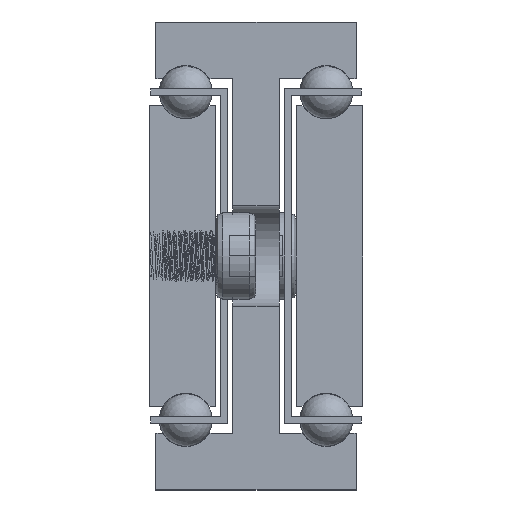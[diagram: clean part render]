
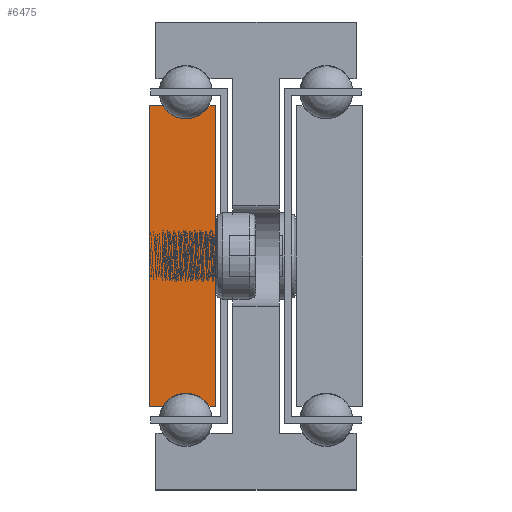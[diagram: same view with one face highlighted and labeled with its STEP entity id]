
A CAD part, front view. The second image highlights one B-rep face of the part: STEP entity #6475.
In plain terms, the highlighted planar face has unit normal (0, -1, 0).
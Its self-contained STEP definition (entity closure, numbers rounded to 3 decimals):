
#1037=CIRCLE('',#6959,4.);
#1039=CIRCLE('',#6965,4.);
#1569=FACE_OUTER_BOUND('',#1989,.T.);
#1989=EDGE_LOOP('',(#5126,#5127,#5128,#5129,#5130,#5131,#5132,#5133));
#2668=LINE('',#97193,#2880);
#2671=LINE('',#97199,#2883);
#2675=LINE('',#97211,#2887);
#2678=LINE('',#97217,#2890);
#2681=LINE('',#97223,#2893);
#2685=LINE('',#97233,#2897);
#2880=VECTOR('',#7778,1.);
#2883=VECTOR('',#7783,1.);
#2887=VECTOR('',#7795,1.);
#2890=VECTOR('',#7800,1.);
#2893=VECTOR('',#7805,1.);
#2897=VECTOR('',#7817,1.);
#3180=VERTEX_POINT('',#97190);
#3181=VERTEX_POINT('',#97192);
#3183=VERTEX_POINT('',#97198);
#3185=VERTEX_POINT('',#97204);
#3187=VERTEX_POINT('',#97210);
#3189=VERTEX_POINT('',#97216);
#3191=VERTEX_POINT('',#97222);
#3193=VERTEX_POINT('',#97228);
#4002=EDGE_CURVE('',#3181,#3180,#2668,.T.);
#4005=EDGE_CURVE('',#3183,#3181,#2671,.T.);
#4008=EDGE_CURVE('',#3185,#3183,#1037,.T.);
#4011=EDGE_CURVE('',#3187,#3185,#2675,.T.);
#4014=EDGE_CURVE('',#3189,#3187,#2678,.T.);
#4017=EDGE_CURVE('',#3191,#3189,#2681,.T.);
#4020=EDGE_CURVE('',#3193,#3191,#1039,.T.);
#4023=EDGE_CURVE('',#3180,#3193,#2685,.T.);
#5126=ORIENTED_EDGE('',*,*,#4023,.T.);
#5127=ORIENTED_EDGE('',*,*,#4020,.T.);
#5128=ORIENTED_EDGE('',*,*,#4017,.T.);
#5129=ORIENTED_EDGE('',*,*,#4014,.T.);
#5130=ORIENTED_EDGE('',*,*,#4011,.T.);
#5131=ORIENTED_EDGE('',*,*,#4008,.T.);
#5132=ORIENTED_EDGE('',*,*,#4005,.T.);
#5133=ORIENTED_EDGE('',*,*,#4002,.T.);
#6329=PLANE('',#6968);
#6475=ADVANCED_FACE('',(#1569),#6329,.T.);
#6959=AXIS2_PLACEMENT_3D('',#97205,#7789,#7790);
#6965=AXIS2_PLACEMENT_3D('',#97229,#7811,#7812);
#6968=AXIS2_PLACEMENT_3D('',#97235,#7820,#7821);
#7778=DIRECTION('',(0.,0.,-1.));
#7783=DIRECTION('',(-1.,0.,0.));
#7789=DIRECTION('center_axis',(0.,1.,0.));
#7790=DIRECTION('ref_axis',(-0.866,0.,-0.5));
#7795=DIRECTION('',(-1.,0.,0.));
#7800=DIRECTION('',(0.,0.,1.));
#7805=DIRECTION('',(1.,0.,0.));
#7811=DIRECTION('center_axis',(0.,1.,0.));
#7812=DIRECTION('ref_axis',(0.866,0.,0.5));
#7817=DIRECTION('',(1.,0.,0.));
#7820=DIRECTION('center_axis',(0.,-1.,0.));
#7821=DIRECTION('ref_axis',(1.,0.,0.));
#97190=CARTESIAN_POINT('',(-1058.372,-562.366,-57.5));
#97192=CARTESIAN_POINT('',(-1058.372,-562.366,-12.5));
#97193=CARTESIAN_POINT('',(-1058.372,-562.366,-57.5));
#97198=CARTESIAN_POINT('',(-1056.337,-562.366,-12.5));
#97199=CARTESIAN_POINT('',(-1058.372,-562.366,-12.5));
#97204=CARTESIAN_POINT('',(-1049.408,-562.366,-12.5));
#97205=CARTESIAN_POINT('Origin',(-1052.872,-562.366,-10.5));
#97210=CARTESIAN_POINT('',(-1048.372,-562.366,-12.5));
#97211=CARTESIAN_POINT('',(-1049.408,-562.366,-12.5));
#97216=CARTESIAN_POINT('',(-1048.372,-562.366,-57.5));
#97217=CARTESIAN_POINT('',(-1048.372,-562.366,-12.5));
#97222=CARTESIAN_POINT('',(-1049.408,-562.366,-57.5));
#97223=CARTESIAN_POINT('',(-1048.372,-562.366,-57.5));
#97228=CARTESIAN_POINT('',(-1056.337,-562.366,-57.5));
#97229=CARTESIAN_POINT('Origin',(-1052.872,-562.366,-59.5));
#97233=CARTESIAN_POINT('',(-1056.337,-562.366,-57.5));
#97235=CARTESIAN_POINT('Origin',(-1053.378,-562.366,-35.));
